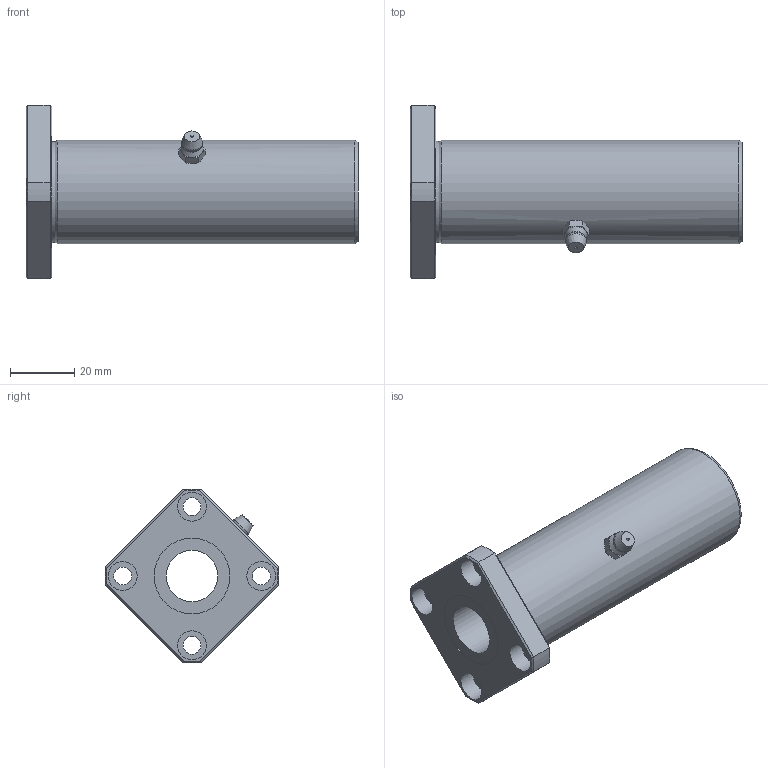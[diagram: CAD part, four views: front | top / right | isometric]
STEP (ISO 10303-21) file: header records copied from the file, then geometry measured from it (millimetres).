
FILE_DESCRIPTION((''),'2;1');
FILE_NAME('D:\製品 (図面)\カタログ用3D\リニアベアリング関連\STEP形式\LFLK\LFLK16.stp','2010-06-04T09:08:32',('Tsuchiya'),(''),'Autodesk Inventor 10','Autodesk Inventor 10','');
FILE_SCHEMA(('AUTOMOTIVE_DESIGN { 1 0 10303 214 1 1 1 1 }'));
Length unit declared in the file: millimetre
Products named in the file (1): LFLK16
Bounding box: 103 x 53.97 x 53.97 mm (x, y, z)
Volume: 68077.6 mm3; surface area: 19751.4 mm2
Topology: 1 solids, 1 shells, 76 faces, 159 edges, 94 vertices
Faces by surface type: plane 31, cone 21, cylinder 18, bspline 3, sphere 2, torus 1
Full cylindrical faces by diameter (mm): 5.5 x4, 9 x4, 16 x1, 23.5 x2, 32 x1
Entity records: 2171 total; most frequent: CARTESIAN_POINT 657, DIRECTION 310, ORIENTED_EDGE 280, EDGE_CURVE 140, AXIS2_PLACEMENT_3D 138, EDGE_LOOP 114, VERTEX_POINT 92, FACE_OUTER_BOUND 76
